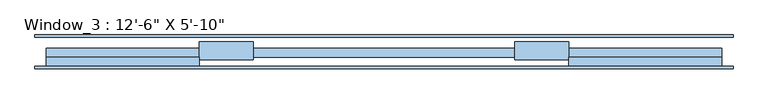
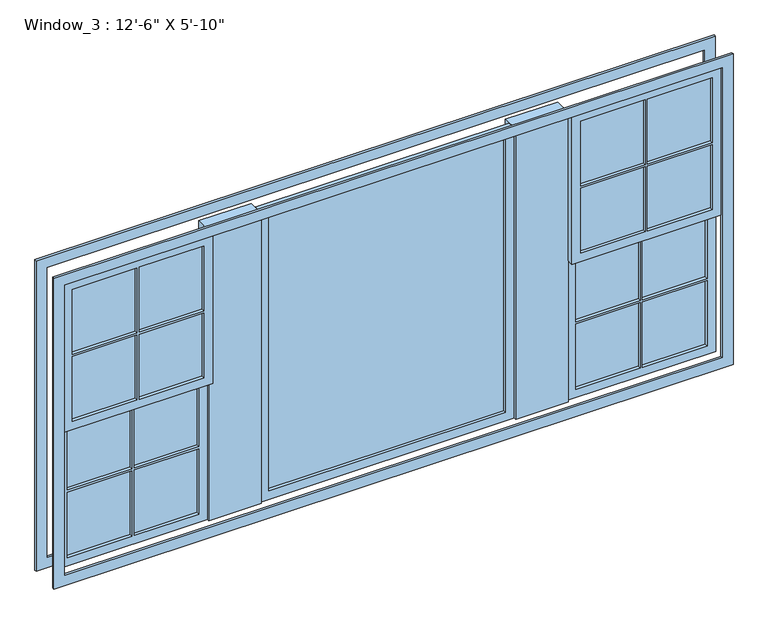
"""IFC4 building model written with IfcOpenShell, lengths in millimetres: window geometry."""

from ifc_helpers import new_model, si_unit, frame, origin, place, context, project, spatial, polyline, outline, extrude, source, transform, mapped, element, save


def window_cb41b9cf(model_context):
    return source(origin(), model_context, "Body", "SweptSolid", [
        extrude(outline(polyline([(1854.2, -50.8), (1854.2, -64.0853592), (1479.55, -64.0853592), (1479.55, -50.8), (1854.2, -50.8)])), frame((0.0, 0.0, 2141.5375), z_axis=(0.0, 0.0, 1.0), x_axis=(1.0, 0.0, 0.0)), (0.0, 0.0, 1.0), 398.4625),
        extrude(outline(polyline([(-1479.55, -50.8), (-1479.55, -64.0853592), (-1854.2, -64.0853592), (-1854.2, -50.8), (-1479.55, -50.8)])), frame((0.0, 0.0, 2141.5375), z_axis=(0.0, 0.0, 1.0), x_axis=(1.0, 0.0, 0.0)), (0.0, 0.0, 1.0), 398.4625),
        extrude(outline(polyline([(-1092.2, -50.8), (-1092.2, -64.0853592), (-1466.85, -64.0853592), (-1466.85, -50.8), (-1092.2, -50.8)])), frame((0.0, 0.0, 2141.5375), z_axis=(0.0, 0.0, 1.0), x_axis=(1.0, 0.0, 0.0)), (0.0, 0.0, 1.0), 398.4625),
        extrude(outline(polyline([(1854.2, -50.8), (1854.2, -64.0853592), (1479.55, -64.0853592), (1479.55, -50.8), (1854.2, -50.8)])), frame((0.0, 0.0, 1730.375), z_axis=(0.0, 0.0, 1.0), x_axis=(1.0, 0.0, 0.0)), (0.0, 0.0, 1.0), 398.4625),
        extrude(outline(polyline([(1466.85, -50.8), (1466.85, -64.0853592), (1092.2, -64.0853592), (1092.2, -50.8), (1466.85, -50.8)])), frame((0.0, 0.0, 1730.375), z_axis=(0.0, 0.0, 1.0), x_axis=(1.0, 0.0, 0.0)), (0.0, 0.0, 1.0), 398.4625),
        extrude(outline(polyline([(1466.85, -50.8), (1466.85, -64.0853592), (1092.2, -64.0853592), (1092.2, -50.8), (1466.85, -50.8)])), frame((0.0, 0.0, 2141.5375), z_axis=(0.0, 0.0, 1.0), x_axis=(1.0, 0.0, 0.0)), (0.0, 0.0, 1.0), 398.4625),
        extrude(outline(polyline([(-1479.55, -50.8), (-1479.55, -64.0853592), (-1854.2, -64.0853592), (-1854.2, -50.8), (-1479.55, -50.8)])), frame((0.0, 0.0, 1730.375), z_axis=(0.0, 0.0, 1.0), x_axis=(1.0, 0.0, 0.0)), (0.0, 0.0, 1.0), 398.4625),
        extrude(outline(polyline([(-1092.2, -50.8), (-1092.2, -64.0853592), (-1466.85, -64.0853592), (-1466.85, -50.8), (-1092.2, -50.8)])), frame((0.0, 0.0, 1730.375), z_axis=(0.0, 0.0, 1.0), x_axis=(1.0, 0.0, 0.0)), (0.0, 0.0, 1.0), 398.4625),
        extrude(outline(polyline([(2590.8, 1041.4), (1679.575, 1041.4), (1679.575, 1905.0), (2590.8, 1905.0), (2590.8, 1041.4)]), holes=[polyline([(2540.0, 1479.55), (2540.0, 1854.2), (2141.5375, 1854.2), (2141.5375, 1479.55), (2540.0, 1479.55)]), polyline([(1730.375, 1479.55), (2128.8375, 1479.55), (2128.8375, 1854.2), (1730.375, 1854.2), (1730.375, 1479.55)]), polyline([(2128.8375, 1092.2), (2128.8375, 1466.85), (1730.375, 1466.85), (1730.375, 1092.2), (2128.8375, 1092.2)]), polyline([(2141.5375, 1466.85), (2141.5375, 1092.2), (2540.0, 1092.2), (2540.0, 1466.85), (2141.5375, 1466.85)])]), frame((0.0, -82.55, 0.0), z_axis=(0.0, 1.0, 0.0), x_axis=(0.0, 0.0, 1.0)), (0.0, 0.0, 1.0), 50.8),
        extrude(outline(polyline([(2590.8, -1041.4), (2590.8, -1905.0), (1679.575, -1905.0), (1679.575, -1041.4), (2590.8, -1041.4)]), holes=[polyline([(2141.5375, -1466.85), (2540.0, -1466.85), (2540.0, -1092.2), (2141.5375, -1092.2), (2141.5375, -1466.85)]), polyline([(2540.0, -1479.55), (2141.5375, -1479.55), (2141.5375, -1854.2), (2540.0, -1854.2), (2540.0, -1479.55)]), polyline([(1730.375, -1479.55), (1730.375, -1854.2), (2128.8375, -1854.2), (2128.8375, -1479.55), (1730.375, -1479.55)]), polyline([(2128.8375, -1092.2), (1730.375, -1092.2), (1730.375, -1466.85), (2128.8375, -1466.85), (2128.8375, -1092.2)])]), frame((0.0, -82.55, 0.0), z_axis=(0.0, 1.0, 0.0), x_axis=(0.0, 0.0, 1.0)), (0.0, 0.0, 1.0), 50.8),
        extrude(outline(polyline([(-736.6, 57.15), (-736.6, -44.45), (-1041.4, -44.45), (-1041.4, 57.15), (-736.6, 57.15)])), frame((0.0, 0.0, 812.8), z_axis=(0.0, 0.0, 1.0), x_axis=(1.0, 0.0, 0.0)), (0.0, 0.0, 1.0), 1778.0),
        extrude(outline(polyline([(1041.4, 57.15), (1041.4, -44.45), (736.6, -44.45), (736.6, 57.15), (1041.4, 57.15)])), frame((0.0, 0.0, 812.8), z_axis=(0.0, 0.0, 1.0), x_axis=(1.0, 0.0, 0.0)), (0.0, 0.0, 1.0), 1778.0),
        extrude(outline(polyline([(1479.55, -12.7), (1479.55, 0.0), (1854.2, 0.0), (1854.2, -12.7), (1479.55, -12.7)])), frame((0.0, 0.0, 863.6), z_axis=(0.0, 0.0, 1.0), x_axis=(1.0, 0.0, 0.0)), (0.0, 0.0, 1.0), 401.6375),
        extrude(outline(polyline([(-1854.2, -12.7), (-1854.2, 0.0), (-1479.55, 0.0), (-1479.55, -12.7), (-1854.2, -12.7)])), frame((0.0, 0.0, 863.6), z_axis=(0.0, 0.0, 1.0), x_axis=(1.0, 0.0, 0.0)), (0.0, 0.0, 1.0), 401.6375),
        extrude(outline(polyline([(-1466.85, -12.7), (-1466.85, 0.0), (-1092.2, 0.0), (-1092.2, -12.7), (-1466.85, -12.7)])), frame((0.0, 0.0, 863.6), z_axis=(0.0, 0.0, 1.0), x_axis=(1.0, 0.0, 0.0)), (0.0, 0.0, 1.0), 401.6375),
        extrude(outline(polyline([(-685.8, -12.7), (-685.8, 0.0), (685.8, 0.0), (685.8, -12.7), (-685.8, -12.7)])), frame((0.0, 0.0, 863.6), z_axis=(0.0, 0.0, 1.0), x_axis=(1.0, 0.0, 0.0)), (0.0, 0.0, 1.0), 1676.4),
        extrude(outline(polyline([(1479.55, -12.7), (1479.55, 0.0), (1854.2, 0.0), (1854.2, -12.7), (1479.55, -12.7)])), frame((0.0, 0.0, 1277.9375), z_axis=(0.0, 0.0, 1.0), x_axis=(1.0, 0.0, 0.0)), (0.0, 0.0, 1.0), 401.6375),
        extrude(outline(polyline([(1092.2, -12.7), (1092.2, 0.0), (1466.85, 0.0), (1466.85, -12.7), (1092.2, -12.7)])), frame((0.0, 0.0, 1277.9375), z_axis=(0.0, 0.0, 1.0), x_axis=(1.0, 0.0, 0.0)), (0.0, 0.0, 1.0), 401.6375),
        extrude(outline(polyline([(1092.2, -12.7), (1092.2, 0.0), (1466.85, 0.0), (1466.85, -12.7), (1092.2, -12.7)])), frame((0.0, 0.0, 863.6), z_axis=(0.0, 0.0, 1.0), x_axis=(1.0, 0.0, 0.0)), (0.0, 0.0, 1.0), 401.6375),
        extrude(outline(polyline([(-1854.2, -12.7), (-1854.2, 0.0), (-1479.55, 0.0), (-1479.55, -12.7), (-1854.2, -12.7)])), frame((0.0, 0.0, 1277.9375), z_axis=(0.0, 0.0, 1.0), x_axis=(1.0, 0.0, 0.0)), (0.0, 0.0, 1.0), 401.6375),
        extrude(outline(polyline([(-1466.85, -12.7), (-1466.85, 0.0), (-1092.2, 0.0), (-1092.2, -12.7), (-1466.85, -12.7)])), frame((0.0, 0.0, 1277.9375), z_axis=(0.0, 0.0, 1.0), x_axis=(1.0, 0.0, 0.0)), (0.0, 0.0, 1.0), 401.6375),
        extrude(outline(polyline([(1730.375, 1041.4), (812.8, 1041.4), (812.8, 1905.0), (1730.375, 1905.0), (1730.375, 1041.4)]), holes=[polyline([(1265.2375, 1466.85), (863.6, 1466.85), (863.6, 1092.2), (1265.2375, 1092.2), (1265.2375, 1466.85)]), polyline([(863.6, 1479.55), (1265.2375, 1479.55), (1265.2375, 1854.2), (863.6, 1854.2), (863.6, 1479.55)]), polyline([(1679.575, 1479.55), (1679.575, 1854.2), (1277.9375, 1854.2), (1277.9375, 1479.55), (1679.575, 1479.55)]), polyline([(1277.9375, 1092.2), (1679.575, 1092.2), (1679.575, 1466.85), (1277.9375, 1466.85), (1277.9375, 1092.2)])]), frame((0.0, -31.75, 0.0), z_axis=(0.0, 1.0, 0.0), x_axis=(0.0, 0.0, 1.0)), (0.0, 0.0, 1.0), 50.8),
        extrude(outline(polyline([(812.8, 736.6), (2590.8, 736.6), (2590.8, -736.6), (812.8, -736.6), (812.8, 736.6)]), holes=[polyline([(2540.0, -685.8), (2540.0, 685.8), (863.6, 685.8), (863.6, -685.8), (2540.0, -685.8)])]), frame((0.0, -31.75, 0.0), z_axis=(0.0, 1.0, 0.0), x_axis=(0.0, 0.0, 1.0)), (0.0, 0.0, 1.0), 50.8),
        extrude(outline(polyline([(1730.375, -1041.4), (1730.375, -1905.0), (812.8, -1905.0), (812.8, -1041.4), (1730.375, -1041.4)]), holes=[polyline([(863.6, -1479.55), (863.6, -1854.2), (1265.2375, -1854.2), (1265.2375, -1479.55), (863.6, -1479.55)]), polyline([(1679.575, -1479.55), (1277.9375, -1479.55), (1277.9375, -1854.2), (1679.575, -1854.2), (1679.575, -1479.55)]), polyline([(1277.9375, -1092.2), (1277.9375, -1466.85), (1679.575, -1466.85), (1679.575, -1092.2), (1277.9375, -1092.2)]), polyline([(1265.2375, -1466.85), (1265.2375, -1092.2), (863.6, -1092.2), (863.6, -1466.85), (1265.2375, -1466.85)])]), frame((0.0, -31.75, 0.0), z_axis=(0.0, 1.0, 0.0), x_axis=(0.0, 0.0, 1.0)), (0.0, 0.0, 1.0), 50.8),
        extrude(outline(polyline([(749.3, 1968.5), (2654.3, 1968.5), (2654.3, -1968.5), (749.3, -1968.5), (749.3, 1968.5)]), holes=[polyline([(812.8, 1905.0), (812.8, -1905.0), (2590.8, -1905.0), (2590.8, 1905.0), (812.8, 1905.0)])]), frame((0.0, 82.55, 0.0), z_axis=(0.0, 1.0, 0.0), x_axis=(0.0, 0.0, 1.0)), (0.0, 0.0, 1.0), 12.7),
        extrude(outline(polyline([(749.3, 1968.5), (2654.3, 1968.5), (2654.3, -1968.5), (749.3, -1968.5), (749.3, 1968.5)]), holes=[polyline([(812.8, 1905.0), (812.8, -1905.0), (2590.8, -1905.0), (2590.8, 1905.0), (812.8, 1905.0)])]), frame((0.0, -95.25, 0.0), z_axis=(0.0, 1.0, 0.0), x_axis=(0.0, 0.0, 1.0)), (0.0, 0.0, 1.0), 12.7),
    ])


if __name__ == "__main__":
    model = new_model("IFC4")
    model_context = context("Model", 3, world=origin())
    ifc_project = project(units=[si_unit("LENGTHUNIT", "METRE", prefix="MILLI")], contexts=[model_context])
    site = spatial("IfcSite", under=ifc_project)
    building = spatial("IfcBuilding", under=site)
    placement = place(None, origin())
    window_shape = window_cb41b9cf(model_context)
    element("IfcWindow", 1, ObjectType="Window_3 : 12'-6\" X 5'-10\"", at=placement, inside=building, context=model_context, shape_type="MappedRepresentation", body=[
        mapped(window_shape, transform((0.0, 0.0, 0.0), x_axis=(1.0, 0.0, 0.0), y_axis=(0.0, 1.0, 0.0), z_axis=(0.0, 0.0, 1.0))),
    ])
    save(model, "model.ifc")
